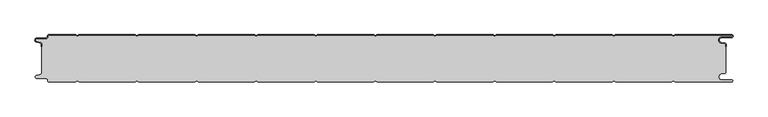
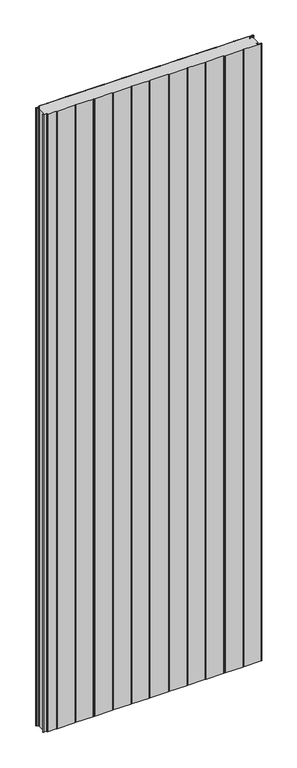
"""IFC4 building model written with IfcOpenShell, lengths in millimetres: plate geometry, PM1_Curtain-Panel_Perfil-Frigorífico : ACH_PM1_Panel-Acústico-Sectorización_80M."""

from ifc_helpers import new_model, si_unit, point, frame, frame_2d, origin, origin_with_axes, place, context, project, spatial, polyline, circle_curve, trimmed, segment, composite_curve, outline, extrude, source, transform, mapped, element, save
from ifc_brep_helpers import plane_surface, cylinder_surface, revolved_surface, advanced_brep


def plate_013f0e3a(model_context):
    return source(origin(), model_context, "Body", "SolidModel", [
        advanced_brep(
        [(-575.0, -15.878557, 3500.0), (-575.0, -20.0, 3500.0), (-574.2, -20.0, 3500.0), (-574.2, -15.878557, 3500.0), (-576.370137, -13.1503208, 3500.0), (-582.529863, -11.728236, 3500.0), (-581.9, -6.2, 3500.0), (-566.4, -6.2, 3500.0), (-563.6, -3.4, 3500.0), (-563.6, -2.0, 3500.0), (-562.4, -0.8, 3500.0), (-517.3143588, -0.8, 3500.0), (-514.4, -2.482606, 3500.0), (-511.4856412, -0.8, 3500.0), (-417.3143588, -0.8, 3500.0), (-414.4, -2.482606, 3500.0), (-411.4856412, -0.8, 3500.0), (-317.3143588, -0.8, 3500.0), (-314.4, -2.482606, 3500.0), (-311.4856412, -0.8, 3500.0), (-217.3143588, -0.8, 3500.0), (-214.4, -2.482606, 3500.0), (-211.4856412, -0.8, 3500.0), (-117.3143588, -0.8, 3500.0), (-114.4, -2.482606, 3500.0), (-111.4856412, -0.8, 3500.0), (-17.3143588, -0.8, 3500.0), (-14.4, -2.482606, 3500.0), (-11.4856412, -0.8, 3500.0), (82.6856412, -0.8, 3500.0), (85.6, -2.482606, 3500.0), (88.5143588, -0.8, 3500.0), (182.6856412, -0.8, 3500.0), (185.6, -2.482606, 3500.0), (188.5143588, -0.8, 3500.0), (282.6856412, -0.8, 3500.0), (285.6, -2.482606, 3500.0), (288.5143588, -0.8, 3500.0), (382.6856412, -0.8, 3500.0), (385.6, -2.482606, 3500.0), (388.5143588, -0.8, 3500.0), (482.6856412, -0.8, 3500.0), (485.6, -2.482606, 3500.0), (488.5143588, -0.8, 3500.0), (583.1, -0.8, 3500.0), (583.1, -4.2, 3500.0), (566.1, -4.2, 3500.0), (565.2664884, -13.7270771, 3500.0), (571.7125669, -14.8636953, 3500.0), (573.2, -16.6363492, 3500.0), (573.2, -20.0, 3500.0), (574.0, -20.0, 3500.0), (574.0, -16.6363492, 3500.0), (571.8514855, -14.0758491, 3500.0), (565.405407, -12.939231, 3500.0), (566.1, -5.0, 3500.0), (583.1, -5.0, 3500.0), (585.6, -2.5, 3500.0), (583.1, 0.0, 3500.0), (488.2999995, 0.0, 3500.0), (485.6, -1.5588455, 3500.0), (482.9000005, 0.0, 3500.0), (388.2999995, 0.0, 3500.0), (385.6, -1.5588455, 3500.0), (382.9000005, 0.0, 3500.0), (288.2999995, 0.0, 3500.0), (285.6, -1.5588455, 3500.0), (282.9000005, 0.0, 3500.0), (188.2999995, 0.0, 3500.0), (185.6, -1.5588455, 3500.0), (182.9000005, 0.0, 3500.0), (88.2999995, 0.0, 3500.0), (85.6, -1.5588455, 3500.0), (82.9000005, 0.0, 3500.0), (-11.7000005, 0.0, 3500.0), (-14.4, -1.5588455, 3500.0), (-17.0999995, 0.0, 3500.0), (-111.7000005, 0.0, 3500.0), (-114.4, -1.5588455, 3500.0), (-117.0999995, 0.0, 3500.0), (-211.7000005, 0.0, 3500.0), (-214.4, -1.5588455, 3500.0), (-217.0999995, 0.0, 3500.0), (-311.7000005, 0.0, 3500.0), (-314.4, -1.5588455, 3500.0), (-317.0999995, 0.0, 3500.0), (-411.7000005, 0.0, 3500.0), (-414.4, -1.5588455, 3500.0), (-417.0999995, 0.0, 3500.0), (-511.7000005, 0.0, 3500.0), (-514.4, -1.5588455, 3500.0), (-517.0999995, 0.0, 3500.0), (-562.4, 0.0, 3500.0), (-564.4, -2.0, 3500.0), (-564.4, -3.4, 3500.0), (-566.4, -5.4, 3500.0), (-581.9, -5.4, 3500.0), (-582.7098239, -12.5077322, 3500.0), (-576.5500979, -13.929817, 3500.0), (-575.0, -15.878557, 0.0), (-576.5500978, -13.9298169, 0.0), (-582.7098239, -12.507732, 0.0), (-581.9, -5.4, 0.0), (-566.4, -5.4, 0.0), (-564.4, -3.4, 0.0), (-564.4, -2.0, 0.0), (-562.4, 0.0, 0.0), (-517.0999995, 0.0, 0.0), (-514.4, -1.5588455, 0.0), (-511.7000005, 0.0, 0.0), (-417.0999995, 0.0, 0.0), (-414.4, -1.5588455, 0.0), (-411.7000005, 0.0, 0.0), (-317.0999995, 0.0, 0.0), (-314.4, -1.5588455, 0.0), (-311.7000005, 0.0, 0.0), (-217.0999995, 0.0, 0.0), (-214.4, -1.5588455, 0.0), (-211.7000005, 0.0, 0.0), (-117.0999995, 0.0, 0.0), (-114.4, -1.5588455, 0.0), (-111.7000005, 0.0, 0.0), (-17.0999995, 0.0, 0.0), (-14.4, -1.5588455, 0.0), (-11.7000005, 0.0, 0.0), (82.9000005, 0.0, 0.0), (85.6, -1.5588455, 0.0), (88.2999995, 0.0, 0.0), (182.9000005, 0.0, 0.0), (185.6, -1.5588455, 0.0), (188.2999995, 0.0, 0.0), (282.9000005, 0.0, 0.0), (285.6, -1.5588455, 0.0), (288.2999995, 0.0, 0.0), (382.9000005, 0.0, 0.0), (385.6, -1.5588455, 0.0), (388.2999995, 0.0, 0.0), (482.9000005, 0.0, 0.0), (485.6, -1.5588455, 0.0), (488.2999995, 0.0, 0.0), (583.1, 0.0, 0.0), (585.6, -2.5, 0.0), (583.1, -5.0, 0.0), (566.1, -5.0, 0.0), (565.405407, -12.939231, 0.0), (571.8514855, -14.0758491, 0.0), (574.0, -16.6363492, 0.0), (574.0, -20.0, 0.0), (573.2, -20.0, 0.0), (573.2, -16.6363492, 0.0), (571.7125669, -14.8636953, 0.0), (565.2664884, -13.7270772, 0.0), (566.1, -4.2, 0.0), (583.1, -4.2, 0.0), (583.1, -0.8, 0.0), (488.5143588, -0.8, 0.0), (485.6, -2.482606, 0.0), (482.6856412, -0.8, 0.0), (388.5143588, -0.8, 0.0), (385.6, -2.482606, 0.0), (382.6856412, -0.8, 0.0), (288.5143588, -0.8, 0.0), (285.6, -2.482606, 0.0), (282.6856412, -0.8, 0.0), (188.5143588, -0.8, 0.0), (185.6, -2.482606, 0.0), (182.6856412, -0.8, 0.0), (88.5143588, -0.8, 0.0), (85.6, -2.482606, 0.0), (82.6856412, -0.8, 0.0), (-11.4856412, -0.8, 0.0), (-14.4, -2.482606, 0.0), (-17.3143588, -0.8, 0.0), (-111.4856412, -0.8, 0.0), (-114.4, -2.482606, 0.0), (-117.3143588, -0.8, 0.0), (-211.4856412, -0.8, 0.0), (-214.4, -2.482606, 0.0), (-217.3143588, -0.8, 0.0), (-311.4856412, -0.8, 0.0), (-314.4, -2.482606, 0.0), (-317.3143588, -0.8, 0.0), (-411.4856412, -0.8, 0.0), (-414.4, -2.482606, 0.0), (-417.3143588, -0.8, 0.0), (-511.4856412, -0.8, 0.0), (-514.4, -2.482606, 0.0), (-517.3143588, -0.8, 0.0), (-562.4, -0.8, 0.0), (-563.6, -2.0, 0.0), (-563.6, -3.4, 0.0), (-566.4, -6.2, 0.0), (-581.9, -6.2, 0.0), (-582.529863, -11.7282362, 0.0), (-576.370137, -13.150321, 0.0), (-574.2, -15.878557, 0.0), (-574.2, -20.0, 0.0), (-575.0, -20.0, 0.0)],
        [
            (0, 1),
            (1, 2),
            (2, 3),
            (3, 4, circle_curve(frame((-577.0, -15.878557, 3500.0), z_axis=(0.0, 0.0, 1.0), x_axis=(1.0, 0.0, 0.0)), 2.8)),
            (4, 5),
            (5, 6, circle_curve(frame((-581.9, -9.0, 3500.0), z_axis=(0.0, 0.0, -1.0), x_axis=(1.0, 0.0, 0.0)), 2.8)),
            (6, 7),
            (7, 8, circle_curve(frame((-566.4, -3.4, 3500.0), z_axis=(0.0, 0.0, 1.0), x_axis=(1.0, 0.0, 0.0)), 2.8)),
            (8, 9),
            (9, 10, circle_curve(frame((-562.4, -2.0, 3500.0), z_axis=(0.0, 0.0, -1.0), x_axis=(1.0, 0.0, 0.0)), 1.2)),
            (10, 11),
            (11, 12),
            (12, 13),
            (13, 14),
            (14, 15),
            (15, 16),
            (16, 17),
            (17, 18),
            (18, 19),
            (19, 20),
            (20, 21),
            (21, 22),
            (22, 23),
            (23, 24),
            (24, 25),
            (25, 26),
            (26, 27),
            (27, 28),
            (28, 29),
            (29, 30),
            (30, 31),
            (31, 32),
            (32, 33),
            (33, 34),
            (34, 35),
            (35, 36),
            (36, 37),
            (37, 38),
            (38, 39),
            (39, 40),
            (40, 41),
            (41, 42),
            (42, 43),
            (43, 44),
            (44, 45, circle_curve(frame((583.1, -2.5, 3500.0), z_axis=(0.0, 0.0, -1.0), x_axis=(1.0, 0.0, 0.0)), 1.7)),
            (45, 46),
            (46, 47, circle_curve(frame((566.1, -9.0, 3500.0), z_axis=(0.0, 0.0, 1.0), x_axis=(1.0, 0.0, 0.0)), 4.8)),
            (47, 48),
            (48, 49, circle_curve(frame((571.4, -16.6363492, 3500.0), z_axis=(0.0, 0.0, -1.0), x_axis=(1.0, 0.0, 0.0)), 1.8)),
            (49, 50),
            (50, 51),
            (51, 52),
            (52, 53, circle_curve(frame((571.4, -16.6363492, 3500.0), z_axis=(0.0, 0.0, 1.0), x_axis=(1.0, 0.0, 0.0)), 2.6)),
            (53, 54),
            (54, 55, circle_curve(frame((566.1, -9.0, 3500.0), z_axis=(0.0, 0.0, -1.0), x_axis=(1.0, 0.0, 0.0)), 4.0)),
            (55, 56),
            (56, 57, circle_curve(frame((583.1, -2.5, 3500.0), z_axis=(0.0, 0.0, 1.0), x_axis=(1.0, 0.0, 0.0)), 2.5)),
            (57, 58, circle_curve(frame((583.1, -2.5, 3500.0), z_axis=(0.0, 0.0, 1.0), x_axis=(1.0, 0.0, 0.0)), 2.5)),
            (58, 59),
            (59, 60),
            (60, 61),
            (61, 62),
            (62, 63),
            (63, 64),
            (64, 65),
            (65, 66),
            (66, 67),
            (67, 68),
            (68, 69),
            (69, 70),
            (70, 71),
            (71, 72),
            (72, 73),
            (73, 74),
            (74, 75),
            (75, 76),
            (76, 77),
            (77, 78),
            (78, 79),
            (79, 80),
            (80, 81),
            (81, 82),
            (82, 83),
            (83, 84),
            (84, 85),
            (85, 86),
            (86, 87),
            (87, 88),
            (88, 89),
            (89, 90),
            (90, 91),
            (91, 92),
            (92, 93, circle_curve(frame((-562.4, -2.0, 3500.0), z_axis=(0.0, 0.0, 1.0), x_axis=(1.0, 0.0, 0.0)), 2.0)),
            (93, 94),
            (94, 95, circle_curve(frame((-566.4, -3.4, 3500.0), z_axis=(0.0, 0.0, -1.0), x_axis=(1.0, 0.0, 0.0)), 2.0)),
            (95, 96),
            (96, 97, circle_curve(frame((-581.9, -9.0, 3500.0), z_axis=(0.0, 0.0, 1.0), x_axis=(1.0, 0.0, 0.0)), 3.6)),
            (97, 98),
            (98, 0, circle_curve(frame((-577.0, -15.878557, 3500.0), z_axis=(0.0, 0.0, -1.0), x_axis=(1.0, 0.0, 0.0)), 2.0)),
            (99, 100, circle_curve(frame((-577.0, -15.878557, 0.0), z_axis=(0.0, 0.0, 1.0), x_axis=(1.0, 0.0, 0.0)), 2.0)),
            (100, 101),
            (101, 102, circle_curve(frame((-581.9, -9.0, 0.0), z_axis=(0.0, 0.0, -1.0), x_axis=(1.0, 0.0, 0.0)), 3.6)),
            (102, 103),
            (103, 104, circle_curve(frame((-566.4, -3.4, 0.0), z_axis=(0.0, 0.0, 1.0), x_axis=(1.0, 0.0, 0.0)), 2.0)),
            (104, 105),
            (105, 106, circle_curve(frame((-562.4, -2.0, 0.0), z_axis=(0.0, 0.0, -1.0), x_axis=(1.0, 0.0, 0.0)), 2.0)),
            (106, 107),
            (107, 108),
            (108, 109),
            (109, 110),
            (110, 111),
            (111, 112),
            (112, 113),
            (113, 114),
            (114, 115),
            (115, 116),
            (116, 117),
            (117, 118),
            (118, 119),
            (119, 120),
            (120, 121),
            (121, 122),
            (122, 123),
            (123, 124),
            (124, 125),
            (125, 126),
            (126, 127),
            (127, 128),
            (128, 129),
            (129, 130),
            (130, 131),
            (131, 132),
            (132, 133),
            (133, 134),
            (134, 135),
            (135, 136),
            (136, 137),
            (137, 138),
            (138, 139),
            (139, 140),
            (140, 141, circle_curve(frame((583.1, -2.5, 0.0), z_axis=(0.0, 0.0, -1.0), x_axis=(1.0, 0.0, 0.0)), 2.5)),
            (141, 142, circle_curve(frame((583.1, -2.5, 0.0), z_axis=(0.0, 0.0, -1.0), x_axis=(1.0, 0.0, 0.0)), 2.5)),
            (142, 143),
            (143, 144, circle_curve(frame((566.1, -9.0, 0.0), z_axis=(0.0, 0.0, 1.0), x_axis=(1.0, 0.0, 0.0)), 4.0)),
            (144, 145),
            (145, 146, circle_curve(frame((571.4, -16.6363492, 0.0), z_axis=(0.0, 0.0, -1.0), x_axis=(1.0, 0.0, 0.0)), 2.6)),
            (146, 147),
            (147, 148),
            (148, 149),
            (149, 150, circle_curve(frame((571.4, -16.6363492, 0.0), z_axis=(0.0, 0.0, 1.0), x_axis=(1.0, 0.0, 0.0)), 1.8)),
            (150, 151),
            (151, 152, circle_curve(frame((566.1, -9.0, 0.0), z_axis=(0.0, 0.0, -1.0), x_axis=(1.0, 0.0, 0.0)), 4.8)),
            (152, 153),
            (153, 154, circle_curve(frame((583.1, -2.5, 0.0), z_axis=(0.0, 0.0, 1.0), x_axis=(1.0, 0.0, 0.0)), 1.7)),
            (154, 155),
            (155, 156),
            (156, 157),
            (157, 158),
            (158, 159),
            (159, 160),
            (160, 161),
            (161, 162),
            (162, 163),
            (163, 164),
            (164, 165),
            (165, 166),
            (166, 167),
            (167, 168),
            (168, 169),
            (169, 170),
            (170, 171),
            (171, 172),
            (172, 173),
            (173, 174),
            (174, 175),
            (175, 176),
            (176, 177),
            (177, 178),
            (178, 179),
            (179, 180),
            (180, 181),
            (181, 182),
            (182, 183),
            (183, 184),
            (184, 185),
            (185, 186),
            (186, 187),
            (187, 188),
            (188, 189, circle_curve(frame((-562.4, -2.0, 0.0), z_axis=(0.0, 0.0, 1.0), x_axis=(1.0, 0.0, 0.0)), 1.2)),
            (189, 190),
            (190, 191, circle_curve(frame((-566.4, -3.4, 0.0), z_axis=(0.0, 0.0, -1.0), x_axis=(1.0, 0.0, 0.0)), 2.8)),
            (191, 192),
            (192, 193, circle_curve(frame((-581.9, -9.0, 0.0), z_axis=(0.0, 0.0, 1.0), x_axis=(1.0, 0.0, 0.0)), 2.8)),
            (193, 194),
            (194, 195, circle_curve(frame((-577.0, -15.878557, 0.0), z_axis=(0.0, 0.0, -1.0), x_axis=(1.0, 0.0, 0.0)), 2.8)),
            (195, 196),
            (196, 197),
            (197, 99),
            (0, 99),
            (197, 1),
            (196, 2),
            (195, 3),
            (194, 4),
            (193, 5),
            (192, 6),
            (191, 7),
            (190, 8),
            (189, 9),
            (188, 10),
            (187, 11),
            (186, 12),
            (185, 13),
            (184, 14),
            (183, 15),
            (182, 16),
            (181, 17),
            (180, 18),
            (179, 19),
            (178, 20),
            (177, 21),
            (176, 22),
            (175, 23),
            (174, 24),
            (173, 25),
            (172, 26),
            (171, 27),
            (170, 28),
            (169, 29),
            (168, 30),
            (167, 31),
            (166, 32),
            (165, 33),
            (164, 34),
            (163, 35),
            (162, 36),
            (161, 37),
            (160, 38),
            (159, 39),
            (158, 40),
            (157, 41),
            (156, 42),
            (155, 43),
            (154, 44),
            (153, 45),
            (152, 46),
            (151, 47),
            (150, 48),
            (149, 49),
            (148, 50),
            (147, 51),
            (146, 52),
            (145, 53),
            (144, 54),
            (143, 55),
            (142, 56),
            (140, 58),
            (139, 59),
            (138, 60),
            (137, 61),
            (136, 62),
            (135, 63),
            (134, 64),
            (133, 65),
            (132, 66),
            (131, 67),
            (130, 68),
            (129, 69),
            (128, 70),
            (127, 71),
            (126, 72),
            (125, 73),
            (124, 74),
            (123, 75),
            (122, 76),
            (121, 77),
            (120, 78),
            (119, 79),
            (118, 80),
            (117, 81),
            (116, 82),
            (115, 83),
            (114, 84),
            (113, 85),
            (112, 86),
            (111, 87),
            (110, 88),
            (109, 89),
            (108, 90),
            (107, 91),
            (106, 92),
            (105, 93),
            (104, 94),
            (103, 95),
            (102, 96),
            (101, 97),
            (100, 98),
        ],
        [
            plane_surface(frame((-575.0, 0.0, 3500.0), z_axis=(0.0, 0.0, 1.0), x_axis=(0.0, 1.0, 0.0))),
            plane_surface(frame((-575.0, 0.0, 0.0), z_axis=(0.0, 0.0, -1.0), x_axis=(0.0, 1.0, 0.0))),
            plane_surface(frame((-575.0, -15.878557, 3500.0), z_axis=(-1.0, 0.0, 0.0), x_axis=(0.0, 0.0, -1.0))),
            plane_surface(frame((-575.0, -20.0, 3500.0), z_axis=(0.0, -1.0, 0.0), x_axis=(0.0, 0.0, -1.0))),
            plane_surface(frame((-574.2, -20.0, 3500.0), z_axis=(1.0, 0.0, 0.0), x_axis=(0.0, 0.0, -1.0))),
            cylinder_surface(frame((-577.0, -15.878557, 3500.0), z_axis=(0.0, 0.0, 1.0), x_axis=(1.0, 0.0, 0.0)), 2.8),
            plane_surface(frame((-576.370137, -13.150321, 3500.0), z_axis=(0.22495108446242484, 0.9743700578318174, 0.0), x_axis=(0.0, 0.0, -1.0))),
            revolved_surface(polyline([(-579.1, -9.0, 0.0), (-579.1, -9.0, 3500.0)]), (-581.9, -9.0, 3500.0), (0.0, 0.0, -1.0)),
            plane_surface(frame((-581.9, -6.2, 3500.0), z_axis=(0.0, -1.0, 0.0), x_axis=(0.0, 0.0, -1.0))),
            cylinder_surface(frame((-566.4, -3.4, 3500.0), z_axis=(0.0, 0.0, 1.0), x_axis=(1.0, 0.0, 0.0)), 2.8),
            plane_surface(frame((-563.6, -3.4, 3500.0), z_axis=(1.0, 0.0, 0.0), x_axis=(0.0, 0.0, -1.0))),
            revolved_surface(polyline([(-561.1999999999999, -2.0, 0.0), (-561.1999999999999, -2.0, 3500.0)]), (-562.4, -2.0, 3500.0), (0.0, 0.0, -1.0)),
            plane_surface(frame((-562.4, -0.8, 3500.0), z_axis=(0.0, -1.0, 0.0), x_axis=(0.0, 0.0, -1.0))),
            plane_surface(frame((-517.3143588, -0.8, 3500.0), z_axis=(-0.5000000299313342, -0.8660253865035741, 0.0), x_axis=(0.0, 0.0, -1.0))),
            plane_surface(frame((-514.4, -2.482606, 3500.0), z_axis=(0.5000000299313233, -0.8660253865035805, 0.0), x_axis=(0.0, 0.0, -1.0))),
            plane_surface(frame((-511.4856412, -0.8, 3500.0), z_axis=(0.0, -1.0, 0.0), x_axis=(0.0, 0.0, -1.0))),
            plane_surface(frame((-417.3143588, -0.8, 3500.0), z_axis=(-0.5000000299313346, -0.8660253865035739, 0.0), x_axis=(0.0, 0.0, -1.0))),
            plane_surface(frame((-414.4, -2.482606, 3500.0), z_axis=(0.5000000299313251, -0.8660253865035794, 0.0), x_axis=(0.0, 0.0, -1.0))),
            plane_surface(frame((-411.4856412, -0.8, 3500.0), z_axis=(0.0, -1.0, 0.0), x_axis=(0.0, 0.0, -1.0))),
            plane_surface(frame((-317.3143588, -0.8, 3500.0), z_axis=(-0.5000000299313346, -0.866025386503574, 0.0), x_axis=(0.0, 0.0, -1.0))),
            plane_surface(frame((-314.4, -2.482606, 3500.0), z_axis=(0.5000000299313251, -0.8660253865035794, 0.0), x_axis=(0.0, 0.0, -1.0))),
            plane_surface(frame((-311.4856412, -0.8, 3500.0), z_axis=(0.0, -1.0, 0.0), x_axis=(0.0, 0.0, -1.0))),
            plane_surface(frame((-217.3143588, -0.8, 3500.0), z_axis=(-0.5000000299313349, -0.8660253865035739, 0.0), x_axis=(0.0, 0.0, -1.0))),
            plane_surface(frame((-214.4, -2.482606, 3500.0), z_axis=(0.5000000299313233, -0.8660253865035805, 0.0), x_axis=(0.0, 0.0, -1.0))),
            plane_surface(frame((-211.4856412, -0.8, 3500.0), z_axis=(0.0, -1.0, 0.0), x_axis=(0.0, 0.0, -1.0))),
            plane_surface(frame((-117.3143588, -0.8, 3500.0), z_axis=(-0.5000000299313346, -0.866025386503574, 0.0), x_axis=(0.0, 0.0, -1.0))),
            plane_surface(frame((-114.4, -2.482606, 3500.0), z_axis=(0.5000000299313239, -0.8660253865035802, 0.0), x_axis=(0.0, 0.0, -1.0))),
            plane_surface(frame((-111.4856412, -0.8, 3500.0), z_axis=(0.0, -1.0, 0.0), x_axis=(0.0, 0.0, -1.0))),
            plane_surface(frame((-17.3143588, -0.8, 3500.0), z_axis=(-0.5000000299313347, -0.8660253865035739, 0.0), x_axis=(0.0, 0.0, -1.0))),
            plane_surface(frame((-14.4, -2.482606, 3500.0), z_axis=(0.5000000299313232, -0.8660253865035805, 0.0), x_axis=(0.0, 0.0, -1.0))),
            plane_surface(frame((-11.4856412, -0.8, 3500.0), z_axis=(0.0, -1.0, 0.0), x_axis=(0.0, 0.0, -1.0))),
            plane_surface(frame((82.6856412, -0.8, 3500.0), z_axis=(-0.5000000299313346, -0.866025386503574, 0.0), x_axis=(0.0, 0.0, -1.0))),
            plane_surface(frame((85.6, -2.482606, 3500.0), z_axis=(0.5000000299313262, -0.8660253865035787, 0.0), x_axis=(0.0, 0.0, -1.0))),
            plane_surface(frame((88.5143588, -0.8, 3500.0), z_axis=(0.0, -1.0, 0.0), x_axis=(0.0, 0.0, -1.0))),
            plane_surface(frame((182.6856412, -0.8, 3500.0), z_axis=(-0.5000000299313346, -0.8660253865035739, 0.0), x_axis=(0.0, 0.0, -1.0))),
            plane_surface(frame((185.6, -2.482606, 3500.0), z_axis=(0.5000000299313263, -0.8660253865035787, 0.0), x_axis=(0.0, 0.0, -1.0))),
            plane_surface(frame((188.5143588, -0.8, 3500.0), z_axis=(0.0, -1.0, 0.0), x_axis=(0.0, 0.0, -1.0))),
            plane_surface(frame((282.6856412, -0.8, 3500.0), z_axis=(-0.5000000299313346, -0.8660253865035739, 0.0), x_axis=(0.0, 0.0, -1.0))),
            plane_surface(frame((285.6, -2.482606, 3500.0), z_axis=(0.5000000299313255, -0.8660253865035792, 0.0), x_axis=(0.0, 0.0, -1.0))),
            plane_surface(frame((288.5143588, -0.8, 3500.0), z_axis=(0.0, -1.0, 0.0), x_axis=(0.0, 0.0, -1.0))),
            plane_surface(frame((382.6856412, -0.8, 3500.0), z_axis=(-0.5000000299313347, -0.8660253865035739, 0.0), x_axis=(0.0, 0.0, -1.0))),
            plane_surface(frame((385.6, -2.482606, 3500.0), z_axis=(0.5000000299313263, -0.8660253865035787, 0.0), x_axis=(0.0, 0.0, -1.0))),
            plane_surface(frame((388.5143588, -0.8, 3500.0), z_axis=(0.0, -1.0, 0.0), x_axis=(0.0, 0.0, -1.0))),
            plane_surface(frame((482.6856412, -0.8, 3500.0), z_axis=(-0.5000000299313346, -0.866025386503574, 0.0), x_axis=(0.0, 0.0, -1.0))),
            plane_surface(frame((485.6, -2.482606, 3500.0), z_axis=(0.5000000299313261, -0.8660253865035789, 0.0), x_axis=(0.0, 0.0, -1.0))),
            plane_surface(frame((535.6, -0.8, 3500.0), z_axis=(0.0, -1.0, 0.0), x_axis=(0.0, 0.0, -1.0))),
            revolved_surface(polyline([(584.8000000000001, -2.5, 0.0), (584.8000000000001, -2.5, 3500.0)]), (583.1, -2.5, 3500.0), (0.0, 0.0, -1.0)),
            plane_surface(frame((583.1, -4.2, 3500.0), z_axis=(0.0, 1.0, 0.0), x_axis=(0.0, 0.0, -1.0))),
            cylinder_surface(frame((566.1, -9.0, 3500.0), z_axis=(0.0, 0.0, 1.0), x_axis=(1.0, 0.0, 0.0)), 4.8),
            plane_surface(frame((565.2664884, -13.7270772, 3500.0), z_axis=(-0.17364825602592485, -0.9848077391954, 0.0), x_axis=(0.0, 0.0, -1.0))),
            revolved_surface(polyline([(573.1999999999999, -16.6363492, 0.0), (573.1999999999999, -16.6363492, 3500.0)]), (571.4, -16.6363492, 3500.0), (0.0, 0.0, -1.0)),
            plane_surface(frame((573.2, -16.6363492, 3500.0), z_axis=(-1.0, 0.0, 0.0), x_axis=(0.0, 0.0, -1.0))),
            plane_surface(frame((573.2, -20.0, 3500.0), z_axis=(0.0, -1.0, 0.0), x_axis=(0.0, 0.0, -1.0))),
            plane_surface(frame((574.0, -20.0, 3500.0), z_axis=(1.0, 0.0, 0.0), x_axis=(0.0, 0.0, -1.0))),
            cylinder_surface(frame((571.4, -16.6363492, 3500.0), z_axis=(0.0, 0.0, 1.0), x_axis=(1.0, 0.0, 0.0)), 2.6),
            plane_surface(frame((571.8514855, -14.0758491, 3500.0), z_axis=(0.1736482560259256, 0.9848077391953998, 0.0), x_axis=(0.0, 0.0, -1.0))),
            revolved_surface(polyline([(570.1, -9.0, 0.0), (570.1, -9.0, 3500.0)]), (566.1, -9.0, 3500.0), (0.0, 0.0, -1.0)),
            plane_surface(frame((566.1, -5.0, 3500.0), z_axis=(0.0, -1.0, 0.0), x_axis=(0.0, 0.0, -1.0))),
            cylinder_surface(frame((583.1, -2.5, 3500.0), z_axis=(0.0, 0.0, 1.0), x_axis=(1.0, 0.0, 0.0)), 2.5),
            plane_surface(frame((535.6, 0.0, 3500.0), z_axis=(0.0, 1.0, 0.0), x_axis=(0.0, 0.0, -1.0))),
            plane_surface(frame((488.2999995, 0.0, 3500.0), z_axis=(-0.5000000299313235, 0.8660253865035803, 0.0), x_axis=(0.0, 0.0, -1.0))),
            plane_surface(frame((485.6, -1.5588455, 3500.0), z_axis=(0.5000000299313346, 0.8660253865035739, 0.0), x_axis=(0.0, 0.0, -1.0))),
            plane_surface(frame((482.9000005, 0.0, 3500.0), z_axis=(0.0, 1.0, 0.0), x_axis=(0.0, 0.0, -1.0))),
            plane_surface(frame((388.2999995, 0.0, 3500.0), z_axis=(-0.5000000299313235, 0.8660253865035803, 0.0), x_axis=(0.0, 0.0, -1.0))),
            plane_surface(frame((385.6, -1.5588455, 3500.0), z_axis=(0.5000000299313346, 0.8660253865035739, 0.0), x_axis=(0.0, 0.0, -1.0))),
            plane_surface(frame((382.9000005, 0.0, 3500.0), z_axis=(0.0, 1.0, 0.0), x_axis=(0.0, 0.0, -1.0))),
            plane_surface(frame((288.2999995, 0.0, 3500.0), z_axis=(-0.5000000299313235, 0.8660253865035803, 0.0), x_axis=(0.0, 0.0, -1.0))),
            plane_surface(frame((285.6, -1.5588455, 3500.0), z_axis=(0.5000000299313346, 0.8660253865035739, 0.0), x_axis=(0.0, 0.0, -1.0))),
            plane_surface(frame((282.9000005, 0.0, 3500.0), z_axis=(0.0, 1.0, 0.0), x_axis=(0.0, 0.0, -1.0))),
            plane_surface(frame((188.2999995, 0.0, 3500.0), z_axis=(-0.5000000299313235, 0.8660253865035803, 0.0), x_axis=(0.0, 0.0, -1.0))),
            plane_surface(frame((185.6, -1.5588455, 3500.0), z_axis=(0.5000000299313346, 0.8660253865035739, 0.0), x_axis=(0.0, 0.0, -1.0))),
            plane_surface(frame((182.9000005, 0.0, 3500.0), z_axis=(0.0, 1.0, 0.0), x_axis=(0.0, 0.0, -1.0))),
            plane_surface(frame((88.2999995, 0.0, 3500.0), z_axis=(-0.5000000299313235, 0.8660253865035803, 0.0), x_axis=(0.0, 0.0, -1.0))),
            plane_surface(frame((85.6, -1.5588455, 3500.0), z_axis=(0.5000000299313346, 0.8660253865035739, 0.0), x_axis=(0.0, 0.0, -1.0))),
            plane_surface(frame((82.9000005, 0.0, 3500.0), z_axis=(0.0, 1.0, 0.0), x_axis=(0.0, 0.0, -1.0))),
            plane_surface(frame((-11.7000005, 0.0, 3500.0), z_axis=(-0.5000000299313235, 0.8660253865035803, 0.0), x_axis=(0.0, 0.0, -1.0))),
            plane_surface(frame((-14.4, -1.5588455, 3500.0), z_axis=(0.5000000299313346, 0.8660253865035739, 0.0), x_axis=(0.0, 0.0, -1.0))),
            plane_surface(frame((-17.0999995, 0.0, 3500.0), z_axis=(0.0, 1.0, 0.0), x_axis=(0.0, 0.0, -1.0))),
            plane_surface(frame((-111.7000005, 0.0, 3500.0), z_axis=(-0.5000000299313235, 0.8660253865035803, 0.0), x_axis=(0.0, 0.0, -1.0))),
            plane_surface(frame((-114.4, -1.5588455, 3500.0), z_axis=(0.5000000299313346, 0.8660253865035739, 0.0), x_axis=(0.0, 0.0, -1.0))),
            plane_surface(frame((-117.0999995, 0.0, 3500.0), z_axis=(0.0, 1.0, 0.0), x_axis=(0.0, 0.0, -1.0))),
            plane_surface(frame((-211.7000005, 0.0, 3500.0), z_axis=(-0.5000000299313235, 0.8660253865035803, 0.0), x_axis=(0.0, 0.0, -1.0))),
            plane_surface(frame((-214.4, -1.5588455, 3500.0), z_axis=(0.5000000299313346, 0.8660253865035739, 0.0), x_axis=(0.0, 0.0, -1.0))),
            plane_surface(frame((-217.0999995, 0.0, 3500.0), z_axis=(0.0, 1.0, 0.0), x_axis=(0.0, 0.0, -1.0))),
            plane_surface(frame((-311.7000005, 0.0, 3500.0), z_axis=(-0.5000000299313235, 0.8660253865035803, 0.0), x_axis=(0.0, 0.0, -1.0))),
            plane_surface(frame((-314.4, -1.5588455, 3500.0), z_axis=(0.5000000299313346, 0.8660253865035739, 0.0), x_axis=(0.0, 0.0, -1.0))),
            plane_surface(frame((-317.0999995, 0.0, 3500.0), z_axis=(0.0, 1.0, 0.0), x_axis=(0.0, 0.0, -1.0))),
            plane_surface(frame((-411.7000005, 0.0, 3500.0), z_axis=(-0.5000000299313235, 0.8660253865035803, 0.0), x_axis=(0.0, 0.0, -1.0))),
            plane_surface(frame((-414.4, -1.5588455, 3500.0), z_axis=(0.5000000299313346, 0.8660253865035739, 0.0), x_axis=(0.0, 0.0, -1.0))),
            plane_surface(frame((-417.0999995, 0.0, 3500.0), z_axis=(0.0, 1.0, 0.0), x_axis=(0.0, 0.0, -1.0))),
            plane_surface(frame((-511.7000005, 0.0, 3500.0), z_axis=(-0.5000000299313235, 0.8660253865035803, 0.0), x_axis=(0.0, 0.0, -1.0))),
            plane_surface(frame((-514.4, -1.5588455, 3500.0), z_axis=(0.5000000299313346, 0.8660253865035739, 0.0), x_axis=(0.0, 0.0, -1.0))),
            plane_surface(frame((-517.0999995, 0.0, 3500.0), z_axis=(0.0, 1.0, 0.0), x_axis=(0.0, 0.0, -1.0))),
            cylinder_surface(frame((-562.4, -2.0, 3500.0), z_axis=(0.0, 0.0, 1.0), x_axis=(1.0, 0.0, 0.0)), 2.0),
            plane_surface(frame((-564.4, -2.0, 3500.0), z_axis=(-1.0, 0.0, 0.0), x_axis=(0.0, 0.0, -1.0))),
            revolved_surface(polyline([(-564.4, -3.4, 0.0), (-564.4, -3.4, 3500.0)]), (-566.4, -3.4, 3500.0), (0.0, 0.0, -1.0)),
            plane_surface(frame((-566.4, -5.4, 3500.0), z_axis=(0.0, 1.0, 0.0), x_axis=(0.0, 0.0, -1.0))),
            cylinder_surface(frame((-581.9, -9.0, 3500.0), z_axis=(0.0, 0.0, 1.0), x_axis=(1.0, 0.0, 0.0)), 3.6),
            plane_surface(frame((-582.7098239, -12.507732, 3500.0), z_axis=(-0.22495108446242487, -0.9743700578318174, 0.0), x_axis=(0.0, 0.0, -1.0))),
            revolved_surface(polyline([(-575.0, -15.878557, 0.0), (-575.0, -15.878557, 3500.0)]), (-577.0, -15.878557, 3500.0), (0.0, 0.0, -1.0)),
        ],
        [
            (0, [[1, 2, 3, 4, 5, 6, 7, 8, 9, 10, 11, 12, 13, 14, 15, 16, 17, 18, 19, 20, 21, 22, 23, 24, 25, 26, 27, 28, 29, 30, 31, 32, 33, 34, 35, 36, 37, 38, 39, 40, 41, 42, 43, 44, 45, 46, 47, 48, 49, 50, 51, 52, 53, 54, 55, 56, 57, 58, 59, 60, 61, 62, 63, 64, 65, 66, 67, 68, 69, 70, 71, 72, 73, 74, 75, 76, 77, 78, 79, 80, 81, 82, 83, 84, 85, 86, 87, 88, 89, 90, 91, 92, 93, 94, 95, 96, 97, 98, 99]]),
            (1, [[100, 101, 102, 103, 104, 105, 106, 107, 108, 109, 110, 111, 112, 113, 114, 115, 116, 117, 118, 119, 120, 121, 122, 123, 124, 125, 126, 127, 128, 129, 130, 131, 132, 133, 134, 135, 136, 137, 138, 139, 140, 141, 142, 143, 144, 145, 146, 147, 148, 149, 150, 151, 152, 153, 154, 155, 156, 157, 158, 159, 160, 161, 162, 163, 164, 165, 166, 167, 168, 169, 170, 171, 172, 173, 174, 175, 176, 177, 178, 179, 180, 181, 182, 183, 184, 185, 186, 187, 188, 189, 190, 191, 192, 193, 194, 195, 196, 197, 198]]),
            (2, [[-1, 199, -198, 200]]),
            (3, [[-2, -200, -197, 201]]),
            (4, [[-3, -201, -196, 202]]),
            (5, [[-4, -202, -195, 203]]),
            (6, [[-5, -203, -194, 204]]),
            (7, [[-6, -204, -193, 205]]),
            (8, [[-7, -205, -192, 206]]),
            (9, [[-8, -206, -191, 207]]),
            (10, [[-9, -207, -190, 208]]),
            (11, [[-10, -208, -189, 209]]),
            (12, [[-11, -209, -188, 210]]),
            (13, [[-12, -210, -187, 211]]),
            (14, [[-13, -211, -186, 212]]),
            (15, [[-14, -212, -185, 213]]),
            (16, [[-15, -213, -184, 214]]),
            (17, [[-16, -214, -183, 215]]),
            (18, [[-17, -215, -182, 216]]),
            (19, [[-18, -216, -181, 217]]),
            (20, [[-19, -217, -180, 218]]),
            (21, [[-20, -218, -179, 219]]),
            (22, [[-21, -219, -178, 220]]),
            (23, [[-22, -220, -177, 221]]),
            (24, [[-23, -221, -176, 222]]),
            (25, [[-24, -222, -175, 223]]),
            (26, [[-25, -223, -174, 224]]),
            (27, [[-26, -224, -173, 225]]),
            (28, [[-27, -225, -172, 226]]),
            (29, [[-28, -226, -171, 227]]),
            (30, [[-29, -227, -170, 228]]),
            (31, [[-30, -228, -169, 229]]),
            (32, [[-31, -229, -168, 230]]),
            (33, [[-32, -230, -167, 231]]),
            (34, [[-33, -231, -166, 232]]),
            (35, [[-34, -232, -165, 233]]),
            (36, [[-35, -233, -164, 234]]),
            (37, [[-36, -234, -163, 235]]),
            (38, [[-37, -235, -162, 236]]),
            (39, [[-38, -236, -161, 237]]),
            (40, [[-39, -237, -160, 238]]),
            (41, [[-40, -238, -159, 239]]),
            (42, [[-41, -239, -158, 240]]),
            (43, [[-42, -240, -157, 241]]),
            (44, [[-43, -241, -156, 242]]),
            (45, [[-44, -242, -155, 243]]),
            (46, [[-45, -243, -154, 244]]),
            (47, [[-46, -244, -153, 245]]),
            (48, [[-47, -245, -152, 246]]),
            (49, [[-48, -246, -151, 247]]),
            (50, [[-49, -247, -150, 248]]),
            (51, [[-50, -248, -149, 249]]),
            (52, [[-51, -249, -148, 250]]),
            (53, [[-52, -250, -147, 251]]),
            (54, [[-53, -251, -146, 252]]),
            (55, [[-54, -252, -145, 253]]),
            (56, [[-55, -253, -144, 254]]),
            (57, [[-56, -254, -143, 255]]),
            (58, [[-255, -142, -141, 256, -58, -57]]),
            (59, [[-59, -256, -140, 257]]),
            (60, [[-60, -257, -139, 258]]),
            (61, [[-61, -258, -138, 259]]),
            (62, [[-62, -259, -137, 260]]),
            (63, [[-63, -260, -136, 261]]),
            (64, [[-64, -261, -135, 262]]),
            (65, [[-65, -262, -134, 263]]),
            (66, [[-66, -263, -133, 264]]),
            (67, [[-67, -264, -132, 265]]),
            (68, [[-68, -265, -131, 266]]),
            (69, [[-69, -266, -130, 267]]),
            (70, [[-70, -267, -129, 268]]),
            (71, [[-71, -268, -128, 269]]),
            (72, [[-72, -269, -127, 270]]),
            (73, [[-73, -270, -126, 271]]),
            (74, [[-74, -271, -125, 272]]),
            (75, [[-75, -272, -124, 273]]),
            (76, [[-76, -273, -123, 274]]),
            (77, [[-77, -274, -122, 275]]),
            (78, [[-78, -275, -121, 276]]),
            (79, [[-79, -276, -120, 277]]),
            (80, [[-80, -277, -119, 278]]),
            (81, [[-81, -278, -118, 279]]),
            (82, [[-82, -279, -117, 280]]),
            (83, [[-83, -280, -116, 281]]),
            (84, [[-84, -281, -115, 282]]),
            (85, [[-85, -282, -114, 283]]),
            (86, [[-86, -283, -113, 284]]),
            (87, [[-87, -284, -112, 285]]),
            (88, [[-88, -285, -111, 286]]),
            (89, [[-89, -286, -110, 287]]),
            (90, [[-90, -287, -109, 288]]),
            (91, [[-91, -288, -108, 289]]),
            (92, [[-92, -289, -107, 290]]),
            (93, [[-93, -290, -106, 291]]),
            (94, [[-94, -291, -105, 292]]),
            (95, [[-95, -292, -104, 293]]),
            (96, [[-96, -293, -103, 294]]),
            (97, [[-97, -294, -102, 295]]),
            (98, [[-98, -295, -101, 296]]),
            (99, [[-99, -296, -100, -199]]),
        ],
    ),
        extrude(outline(composite_curve([segment(polyline([(-574.2, -64.1214426), (-574.2, -15.8785573)]), True, "CONTINUOUS"), segment(trimmed(circle_curve(frame_2d((-577.0, -15.8785573)), 2.8), [point((-574.2, -15.8785573))], [point((-576.370137, -13.1503212))], True, "CARTESIAN"), True, "CONTINUOUS"), segment(polyline([(-576.370137, -13.1503212), (-582.5298631, -11.7282362)]), True, "CONTINUOUS"), segment(trimmed(circle_curve(frame_2d((-581.9, -9.0)), 2.8), [point((-582.5298631, -11.7282362))], [point((-581.9, -6.2))], False, "CARTESIAN"), True, "CONTINUOUS"), segment(polyline([(-581.9, -6.2), (-566.4000001, -6.2)]), True, "CONTINUOUS"), segment(trimmed(circle_curve(frame_2d((-566.4000001, -3.4)), 2.8), [point((-566.4000001, -6.2))], [point((-563.6000001, -3.4))], True, "CARTESIAN"), True, "CONTINUOUS"), segment(polyline([(-563.6000001, -3.4), (-563.6000001, -2.0)]), True, "CONTINUOUS"), segment(trimmed(circle_curve(frame_2d((-562.4000001, -2.0)), 1.2), [point((-563.6000001, -2.0))], [point((-562.4000001, -0.8))], False, "CARTESIAN"), True, "CONTINUOUS"), segment(polyline([(-562.4000001, -0.8), (-517.3143589, -0.8), (-514.4000001, -2.482606), (-511.4856412, -0.8), (-417.3143589, -0.8), (-414.4000001, -2.482606), (-411.4856412, -0.8), (-317.3143589, -0.8), (-314.4000001, -2.482606), (-311.4856412, -0.8), (-217.3143589, -0.8), (-214.4000001, -2.482606), (-211.4856412, -0.8), (-117.3143589, -0.8), (-114.4000001, -2.482606), (-111.4856412, -0.8), (-17.3143589, -0.8), (-14.4000001, -2.482606), (-11.4856412, -0.8), (82.6856411, -0.8), (85.5999999, -2.482606), (88.5143588, -0.8), (182.6856411, -0.8), (185.5999999, -2.482606), (188.5143588, -0.8), (282.6856411, -0.8), (285.5999999, -2.482606), (288.5143588, -0.8), (382.6856411, -0.8), (385.5999999, -2.482606), (388.5143588, -0.8), (482.6856411, -0.8), (485.6, -2.482606), (488.5143588, -0.8), (583.1, -0.8)]), True, "CONTINUOUS"), segment(trimmed(circle_curve(frame_2d((583.1, -2.5)), 1.7), [point((583.1, -0.8))], [point((583.1, -4.2))], False, "CARTESIAN"), True, "CONTINUOUS"), segment(polyline([(583.1, -4.2), (566.1, -4.2)]), True, "CONTINUOUS"), segment(trimmed(circle_curve(frame_2d((566.1, -9.0)), 4.8), [point((566.1, -4.2))], [point((565.2664883, -13.7270771))], True, "CARTESIAN"), True, "CONTINUOUS"), segment(polyline([(565.2664883, -13.7270771), (571.7125668, -14.8636953)]), True, "CONTINUOUS"), segment(trimmed(circle_curve(frame_2d((571.4, -16.6363492)), 1.8), [point((571.7125668, -14.8636953))], [point((573.2, -16.6363492))], False, "CARTESIAN"), True, "CONTINUOUS"), segment(polyline([(573.2, -16.6363492), (573.2, -63.3636508)]), True, "CONTINUOUS"), segment(trimmed(circle_curve(frame_2d((571.4, -63.3636508)), 1.8), [point((573.2, -63.3636508))], [point((571.7125668, -65.1363047))], False, "CARTESIAN"), True, "CONTINUOUS"), segment(polyline([(571.7125668, -65.1363047), (565.2664883, -66.2729229)]), True, "CONTINUOUS"), segment(trimmed(circle_curve(frame_2d((566.1, -71.0)), 4.8), [point((565.2664883, -66.2729229))], [point((566.1, -75.8))], True, "CARTESIAN"), True, "CONTINUOUS"), segment(polyline([(566.1, -75.8), (583.1, -75.8)]), True, "CONTINUOUS"), segment(trimmed(circle_curve(frame_2d((583.1, -77.5)), 1.7), [point((583.1, -75.8))], [point((583.1, -79.2))], False, "CARTESIAN"), True, "CONTINUOUS"), segment(polyline([(583.1, -79.2), (488.5143588, -79.2), (485.6, -77.517394), (482.6856411, -79.2), (388.5143588, -79.2), (385.5999999, -77.517394), (382.6856411, -79.2), (288.5143588, -79.2), (285.5999999, -77.517394), (282.6856411, -79.2), (188.5143588, -79.2), (185.5999999, -77.517394), (182.6856411, -79.2), (88.5143588, -79.2), (85.5999999, -77.517394), (82.6856411, -79.2), (-11.4856412, -79.2), (-14.4000001, -77.517394), (-17.3143589, -79.2), (-111.4856412, -79.2), (-114.4000001, -77.517394), (-117.3143589, -79.2), (-211.4856412, -79.2), (-214.4000001, -77.517394), (-217.3143589, -79.2), (-311.4856412, -79.2), (-314.4000001, -77.517394), (-317.3143589, -79.2), (-411.4856412, -79.2), (-414.4000001, -77.517394), (-417.3143589, -79.2), (-511.4856412, -79.2), (-514.4000001, -77.517394), (-517.3143589, -79.2), (-562.4000001, -79.2)]), True, "CONTINUOUS"), segment(trimmed(circle_curve(frame_2d((-562.4000001, -78.0)), 1.2), [point((-562.4000001, -79.2))], [point((-563.6000001, -78.0))], False, "CARTESIAN"), True, "CONTINUOUS"), segment(polyline([(-563.6000001, -78.0), (-563.6000001, -76.6)]), True, "CONTINUOUS"), segment(trimmed(circle_curve(frame_2d((-566.4000001, -76.6)), 2.8), [point((-563.6000001, -76.6))], [point((-566.4000001, -73.8))], True, "CARTESIAN"), True, "CONTINUOUS"), segment(polyline([(-566.4000001, -73.8), (-581.9, -73.8)]), True, "CONTINUOUS"), segment(trimmed(circle_curve(frame_2d((-581.9, -71.0)), 2.8), [point((-581.9, -73.8))], [point((-582.5298631, -68.2717638))], False, "CARTESIAN"), True, "CONTINUOUS"), segment(polyline([(-582.5298631, -68.2717638), (-576.370137, -66.8496788)]), True, "CONTINUOUS"), segment(trimmed(circle_curve(frame_2d((-577.0, -64.1214426)), 2.8), [point((-576.370137, -66.8496788))], [point((-574.2, -64.1214426))], True, "CARTESIAN"), True, "CONTINUOUS")], self_intersect=False)), origin_with_axes(), (0.0, 0.0, 1.0), 3500.0),
    ])


if __name__ == "__main__":
    model = new_model("IFC4")
    model_context = context("Model", 3, world=origin())
    ifc_project = project(units=[si_unit("LENGTHUNIT", "METRE", prefix="MILLI")], contexts=[model_context])
    site = spatial("IfcSite", under=ifc_project)
    building = spatial("IfcBuilding", under=site)
    placement = place(None, origin())
    plate_shape = plate_013f0e3a(model_context)
    element("IfcPlate", 1, ObjectType="PM1_Curtain-Panel_Perfil-Frigorífico : ACH_PM1_Panel-Acústico-Sectorización_80M", at=placement, inside=building, context=model_context, shape_type="MappedRepresentation", body=[
        mapped(plate_shape, transform((0.0, 0.0, 0.0), x_axis=(1.0, 0.0, 0.0), y_axis=(0.0, 1.0, 0.0), z_axis=(0.0, 0.0, 1.0))),
    ])
    save(model, "model.ifc")
